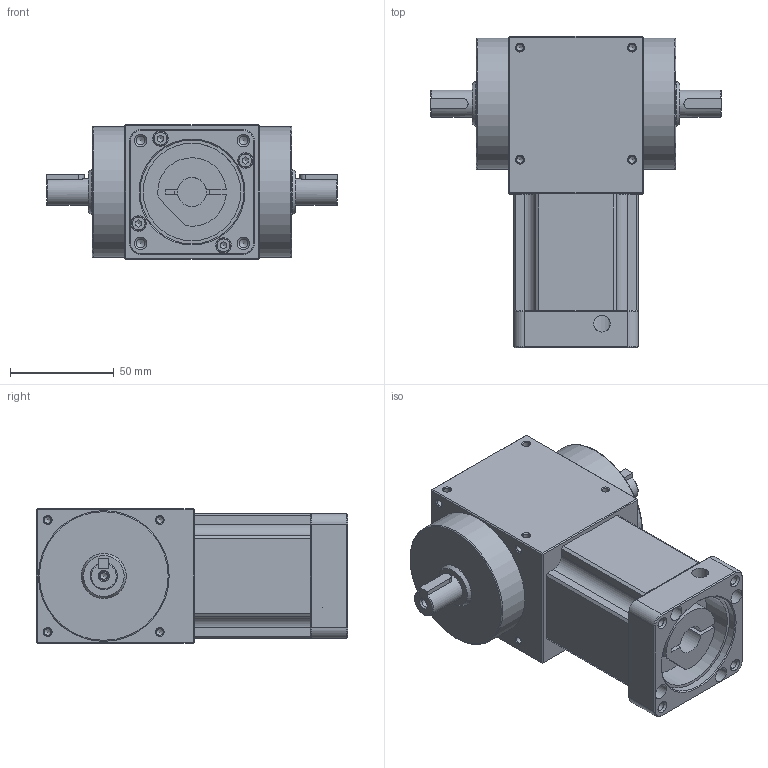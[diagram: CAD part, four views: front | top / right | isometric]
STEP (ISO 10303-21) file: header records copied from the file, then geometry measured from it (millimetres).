
FILE_DESCRIPTION((''),'2;1');
FILE_NAME('D:\유성\SBT 베벨기어박스\최종도면모음\3D\SBT065\홈페이지용\SBT065PTS003~010K.stp','2014-05-20T09:10:25',('nagyu'),(''),'Autodesk Inventor 2013','Autodesk Inventor 2013','');
FILE_SCHEMA(('AUTOMOTIVE_DESIGN { 1 0 10303 214 1 1 1 1 }'));
Length unit declared in the file: millimetre
Products named in the file (1): SBT065PTS003~010K_Shrinkwrap_1
Bounding box: 140 x 150 x 65 mm (x, y, z)
Volume: 635704.9 mm3; surface area: 64833.5 mm2
Topology: 1 solids, 5 shells, 304 faces, 779 edges, 479 vertices
Faces by surface type: plane 124, cylinder 97, cone 71, torus 12
Full cylindrical faces by diameter (mm): 3.242 x42, 4 x6, 4.134 x4, 4.3 x2, 4.5 x4, 7 x4, 7.5 x4, 8 x1, 13 x2, 14 x1, 17 x1, 21.7 x2, 47 x1, 50 x1, 63 x2
Entity records: 7931 total; most frequent: CARTESIAN_POINT 1418, DIRECTION 1412, ORIENTED_EDGE 1110, AXIS2_PLACEMENT_3D 585, EDGE_CURVE 555, EDGE_LOOP 484, VERTEX_POINT 405, FACE_OUTER_BOUND 304
